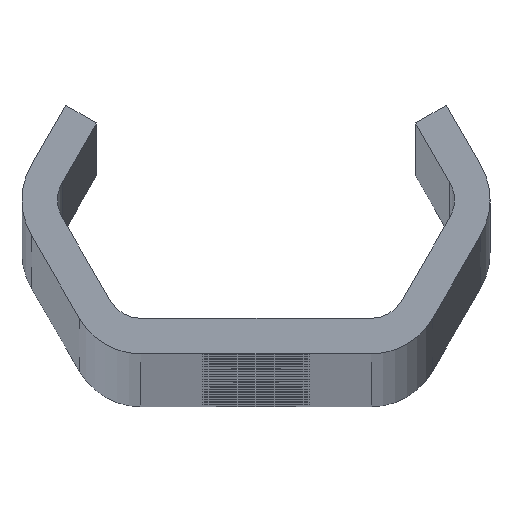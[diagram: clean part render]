
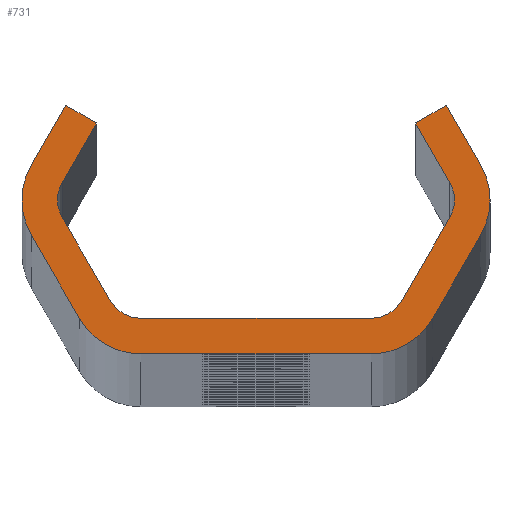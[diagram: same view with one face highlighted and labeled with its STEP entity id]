
A CAD part, top view. The second image highlights one B-rep face of the part: STEP entity #731.
In plain terms, the highlighted planar face has unit normal (0, 0, 1).
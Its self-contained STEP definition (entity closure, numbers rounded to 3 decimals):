
#731=ADVANCED_FACE('NONE',(#2033),#2034,.F.);
#2033=FACE_OUTER_BOUND('',#6583,.T.);
#2034=PLANE('',#6584);
#6583=EDGE_LOOP('',(#13335,#13336,#13337,#13338,#13339,#13340,#13341,#13342,#13343,#13344,#13345,#13346,#13347,#13348,#13349,#13350,#13351,#13352,#13353,#13354,#13355,#13356,#13357,#13358));
#6584=AXIS2_PLACEMENT_3D('',#13359,#13360,#13361);
#13335=ORIENTED_EDGE('',*,*,#17813,.T.);
#13336=ORIENTED_EDGE('',*,*,#17856,.T.);
#13337=ORIENTED_EDGE('',*,*,#17439,.T.);
#13338=ORIENTED_EDGE('',*,*,#17815,.T.);
#13339=ORIENTED_EDGE('',*,*,#17857,.T.);
#13340=ORIENTED_EDGE('',*,*,#17819,.T.);
#13341=ORIENTED_EDGE('',*,*,#17858,.T.);
#13342=ORIENTED_EDGE('',*,*,#17446,.T.);
#13343=ORIENTED_EDGE('',*,*,#17859,.T.);
#13344=ORIENTED_EDGE('',*,*,#17112,.T.);
#13345=ORIENTED_EDGE('',*,*,#17449,.T.);
#13346=ORIENTED_EDGE('',*,*,#17455,.T.);
#13347=ORIENTED_EDGE('',*,*,#17458,.T.);
#13348=ORIENTED_EDGE('',*,*,#17436,.T.);
#13349=ORIENTED_EDGE('',*,*,#17860,.T.);
#13350=ORIENTED_EDGE('',*,*,#17460,.T.);
#13351=ORIENTED_EDGE('',*,*,#17861,.T.);
#13352=ORIENTED_EDGE('',*,*,#17467,.T.);
#13353=ORIENTED_EDGE('',*,*,#17862,.T.);
#13354=ORIENTED_EDGE('',*,*,#17800,.T.);
#13355=ORIENTED_EDGE('',*,*,#17863,.T.);
#13356=ORIENTED_EDGE('',*,*,#17107,.T.);
#13357=ORIENTED_EDGE('',*,*,#17803,.T.);
#13358=ORIENTED_EDGE('',*,*,#17809,.T.);
#13359=CARTESIAN_POINT('',(0.0,0.0,2560.0));
#13360=DIRECTION('',(0.0,0.0,-1.0));
#13361=DIRECTION('',(0.0,-1.0,0.0));
#17107=EDGE_CURVE('NONE',#19068,#19072,#19074,.T.);
#17112=EDGE_CURVE('NONE',#19077,#19081,#19083,.T.);
#17436=EDGE_CURVE('NONE',#19666,#19664,#19667,.T.);
#17439=EDGE_CURVE('NONE',#19670,#19671,#19672,.T.);
#17446=EDGE_CURVE('NONE',#19684,#19682,#19685,.T.);
#17449=EDGE_CURVE('NONE',#19081,#19688,#19689,.T.);
#17455=EDGE_CURVE('NONE',#19688,#19696,#19698,.T.);
#17458=EDGE_CURVE('NONE',#19696,#19666,#19701,.T.);
#17460=EDGE_CURVE('NONE',#19703,#19704,#19705,.T.);
#17467=EDGE_CURVE('NONE',#19717,#19715,#19718,.T.);
#17800=EDGE_CURVE('NONE',#20334,#20332,#20335,.T.);
#17803=EDGE_CURVE('NONE',#19072,#20338,#20339,.T.);
#17809=EDGE_CURVE('NONE',#20338,#20346,#20348,.T.);
#17813=EDGE_CURVE('NONE',#20346,#20352,#20354,.T.);
#17815=EDGE_CURVE('NONE',#19671,#20356,#20357,.T.);
#17819=EDGE_CURVE('NONE',#20362,#20363,#20364,.T.);
#17856=EDGE_CURVE('NONE',#20352,#19670,#20403,.T.);
#17857=EDGE_CURVE('NONE',#20356,#20362,#20404,.T.);
#17858=EDGE_CURVE('NONE',#20363,#19684,#20405,.T.);
#17859=EDGE_CURVE('NONE',#19682,#19077,#20406,.T.);
#17860=EDGE_CURVE('NONE',#19664,#19703,#20407,.T.);
#17861=EDGE_CURVE('NONE',#19704,#19717,#20408,.T.);
#17862=EDGE_CURVE('NONE',#19715,#20334,#20409,.T.);
#17863=EDGE_CURVE('NONE',#20332,#19068,#20410,.T.);
#19068=VERTEX_POINT('',#21975);
#19072=VERTEX_POINT('NONE',#21980);
#19074=CIRCLE('',#21983,3.0);
#19077=VERTEX_POINT('',#21986);
#19081=VERTEX_POINT('NONE',#21991);
#19083=CIRCLE('',#21994,6.0);
#19664=VERTEX_POINT('NONE',#25439);
#19666=VERTEX_POINT('NONE',#25442);
#19667=CIRCLE('',#25443,3.0);
#19670=VERTEX_POINT('NONE',#25447);
#19671=VERTEX_POINT('NONE',#25448);
#19672=CIRCLE('',#25449,6.0);
#19682=VERTEX_POINT('NONE',#25462);
#19684=VERTEX_POINT('NONE',#25465);
#19685=LINE('',#25466,#25467);
#19688=VERTEX_POINT('NONE',#25471);
#19689=LINE('',#25472,#25473);
#19696=VERTEX_POINT('NONE',#25483);
#19698=LINE('',#25486,#25487);
#19701=LINE('',#25491,#25492);
#19703=VERTEX_POINT('NONE',#25494);
#19704=VERTEX_POINT('NONE',#25495);
#19705=LINE('',#25496,#25497);
#19715=VERTEX_POINT('NONE',#25511);
#19717=VERTEX_POINT('NONE',#25514);
#19718=LINE('',#25515,#25516);
#20332=VERTEX_POINT('NONE',#27732);
#20334=VERTEX_POINT('NONE',#27735);
#20335=LINE('',#27736,#27737);
#20338=VERTEX_POINT('NONE',#27741);
#20339=LINE('',#27742,#27743);
#20346=VERTEX_POINT('NONE',#27753);
#20348=LINE('',#27756,#27757);
#20352=VERTEX_POINT('NONE',#27762);
#20354=LINE('',#27765,#27766);
#20356=VERTEX_POINT('NONE',#27768);
#20357=LINE('',#27769,#27770);
#20362=VERTEX_POINT('NONE',#27777);
#20363=VERTEX_POINT('NONE',#27778);
#20364=LINE('',#27779,#27780);
#20403=CIRCLE('',#27822,6.0);
#20404=CIRCLE('',#27823,6.0);
#20405=CIRCLE('',#27824,6.0);
#20406=CIRCLE('',#27825,6.0);
#20407=CIRCLE('',#27826,3.0);
#20408=CIRCLE('',#27827,3.0);
#20409=CIRCLE('',#27828,3.0);
#20410=CIRCLE('',#27829,3.0);
#21975=CARTESIAN_POINT('',(-16.764,0.,2560.0));
#21980=CARTESIAN_POINT('',(-16.362,1.5,2560.0));
#21983=AXIS2_PLACEMENT_3D('',#32997,#32998,#32999);
#21986=CARTESIAN_POINT('',(19.764,0.,2560.0));
#21991=CARTESIAN_POINT('',(18.96,3.,2560.0));
#21994=AXIS2_PLACEMENT_3D('',#33005,#33006,#33007);
#25439=CARTESIAN_POINT('',(16.764,0.,2560.0));
#25442=CARTESIAN_POINT('',(16.362,1.5,2560.0));
#25443=AXIS2_PLACEMENT_3D('',#33332,#33333,#33334);
#25447=CARTESIAN_POINT('',(-19.764,0.,2560.0));
#25448=CARTESIAN_POINT('',(-18.96,-3.,2560.0));
#25449=AXIS2_PLACEMENT_3D('',#33336,#33337,#33338);
#25462=CARTESIAN_POINT('',(18.96,-3.,2560.0));
#25465=CARTESIAN_POINT('',(14.919,-10.,2560.0));
#25466=CARTESIAN_POINT('',(20.692,0.,2560.0));
#25467=VECTOR('',#33346,1000.0);
#25471=CARTESIAN_POINT('',(16.074,8.,2560.0));
#25472=CARTESIAN_POINT('',(16.074,8.,2560.0));
#25473=VECTOR('',#33348,1000.0);
#25483=CARTESIAN_POINT('',(13.475,6.5,2560.0));
#25486=CARTESIAN_POINT('',(13.475,6.5,2560.0));
#25487=VECTOR('',#33353,1000.0);
#25491=CARTESIAN_POINT('',(17.228,0.,2560.0));
#25492=VECTOR('',#33355,1000.0);
#25494=CARTESIAN_POINT('',(16.362,-1.5,2560.0));
#25495=CARTESIAN_POINT('',(12.321,-8.5,2560.0));
#25496=CARTESIAN_POINT('',(11.455,-10.0,2560.0));
#25497=VECTOR('',#33356,1000.0);
#25511=CARTESIAN_POINT('',(-9.723,-10.0,2560.0));
#25514=CARTESIAN_POINT('',(9.723,-10.0,2560.0));
#25515=CARTESIAN_POINT('',(-11.455,-10.0,2560.0));
#25516=VECTOR('',#33362,1000.0);
#27732=CARTESIAN_POINT('',(-16.362,-1.5,2560.0));
#27735=CARTESIAN_POINT('',(-12.321,-8.5,2560.0));
#27736=CARTESIAN_POINT('',(-17.228,0.,2560.0));
#27737=VECTOR('',#33726,1000.0);
#27741=CARTESIAN_POINT('',(-13.475,6.5,2560.0));
#27742=CARTESIAN_POINT('',(-13.475,6.5,2560.0));
#27743=VECTOR('',#33728,1000.0);
#27753=CARTESIAN_POINT('',(-16.074,8.,2560.0));
#27756=CARTESIAN_POINT('',(-13.475,6.5,2560.0));
#27757=VECTOR('',#33733,1000.0);
#27762=CARTESIAN_POINT('',(-18.96,3.,2560.0));
#27765=CARTESIAN_POINT('',(-16.074,8.,2560.0));
#27766=VECTOR('',#33736,1000.0);
#27768=CARTESIAN_POINT('',(-14.919,-10.,2560.0));
#27769=CARTESIAN_POINT('',(-20.692,0.,2560.0));
#27770=VECTOR('',#33737,1000.0);
#27777=CARTESIAN_POINT('',(-9.723,-13.0,2560.0));
#27778=CARTESIAN_POINT('',(9.723,-13.0,2560.0));
#27779=CARTESIAN_POINT('',(-13.187,-13.0,2560.0));
#27780=VECTOR('',#33740,1000.0);
#27822=AXIS2_PLACEMENT_3D('',#33840,#33841,#33842);
#27823=AXIS2_PLACEMENT_3D('',#33843,#33844,#33845);
#27824=AXIS2_PLACEMENT_3D('',#33846,#33847,#33848);
#27825=AXIS2_PLACEMENT_3D('',#33849,#33850,#33851);
#27826=AXIS2_PLACEMENT_3D('',#33852,#33853,#33854);
#27827=AXIS2_PLACEMENT_3D('',#33855,#33856,#33857);
#27828=AXIS2_PLACEMENT_3D('',#33858,#33859,#33860);
#27829=AXIS2_PLACEMENT_3D('',#33861,#33862,#33863);
#32997=CARTESIAN_POINT('',(-13.764,0.,2560.0));
#32998=DIRECTION('',(0.0,0.0,-1.0));
#32999=DIRECTION('',(-1.0,0.0,0.0));
#33005=CARTESIAN_POINT('',(13.764,0.,2560.0));
#33006=DIRECTION('',(0.0,0.0,1.0));
#33007=DIRECTION('',(-1.0,0.0,0.0));
#33332=CARTESIAN_POINT('',(13.764,0.,2560.0));
#33333=DIRECTION('',(0.0,0.0,-1.0));
#33334=DIRECTION('',(-1.0,0.0,0.0));
#33336=CARTESIAN_POINT('',(-13.764,0.,2560.0));
#33337=DIRECTION('',(0.0,0.0,1.0));
#33338=DIRECTION('',(-1.0,0.0,0.0));
#33346=DIRECTION('',(0.5,0.866,-0.0));
#33348=DIRECTION('',(-0.5,0.866,-0.0));
#33353=DIRECTION('',(-0.866,-0.5,-0.0));
#33355=DIRECTION('',(0.5,-0.866,-0.0));
#33356=DIRECTION('',(-0.5,-0.866,-0.0));
#33362=DIRECTION('',(-1.0,0.,-0.0));
#33726=DIRECTION('',(-0.5,0.866,-0.0));
#33728=DIRECTION('',(0.5,0.866,-0.0));
#33733=DIRECTION('',(-0.866,0.5,0.0));
#33736=DIRECTION('',(-0.5,-0.866,0.0));
#33737=DIRECTION('',(0.5,-0.866,0.0));
#33740=DIRECTION('',(1.0,0.0,0.0));
#33840=CARTESIAN_POINT('',(-13.764,0.,2560.0));
#33841=DIRECTION('',(0.0,0.0,1.0));
#33842=DIRECTION('',(-1.0,0.0,0.0));
#33843=CARTESIAN_POINT('',(-9.723,-7.0,2560.0));
#33844=DIRECTION('',(0.0,0.0,1.0));
#33845=DIRECTION('',(-1.0,0.0,0.0));
#33846=CARTESIAN_POINT('',(9.723,-7.0,2560.0));
#33847=DIRECTION('',(0.0,0.0,1.0));
#33848=DIRECTION('',(-1.0,0.,0.0));
#33849=CARTESIAN_POINT('',(13.764,0.,2560.0));
#33850=DIRECTION('',(0.0,0.0,1.0));
#33851=DIRECTION('',(-1.0,0.0,0.0));
#33852=CARTESIAN_POINT('',(13.764,0.,2560.0));
#33853=DIRECTION('',(0.0,0.0,-1.0));
#33854=DIRECTION('',(-1.0,0.0,0.0));
#33855=CARTESIAN_POINT('',(9.723,-7.0,2560.0));
#33856=DIRECTION('',(0.0,0.0,-1.0));
#33857=DIRECTION('',(-1.0,0.0,0.0));
#33858=CARTESIAN_POINT('',(-9.723,-7.0,2560.0));
#33859=DIRECTION('',(0.0,0.0,-1.0));
#33860=DIRECTION('',(-1.0,0.0,0.0));
#33861=CARTESIAN_POINT('',(-13.764,0.,2560.0));
#33862=DIRECTION('',(0.0,0.0,-1.0));
#33863=DIRECTION('',(-1.0,0.0,0.0));
